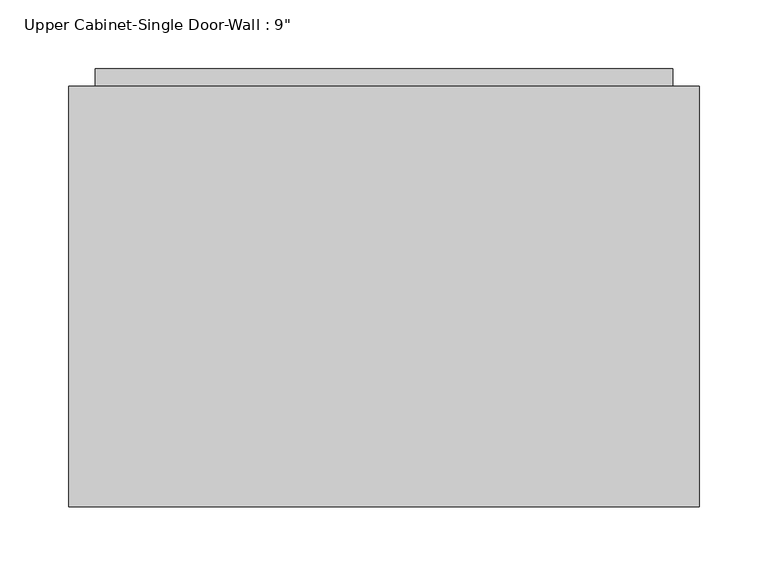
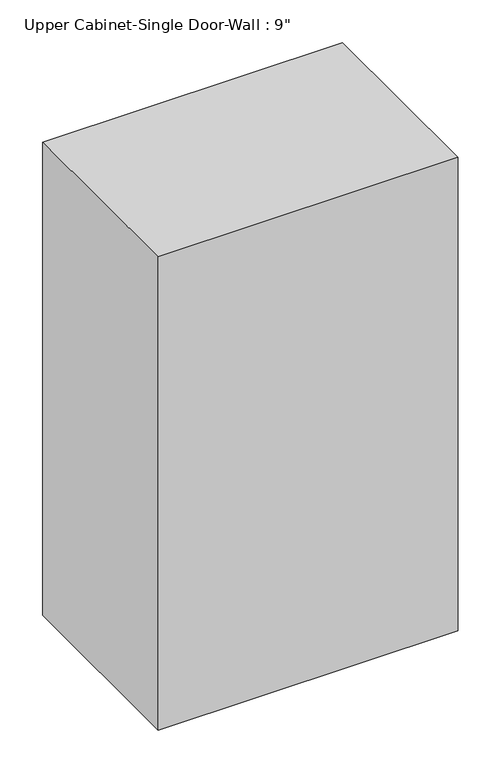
"""IFC4 building model written with IfcOpenShell, lengths in millimetres: furniture geometry."""

from ifc_helpers import new_model, si_unit, frame, origin, place, context, project, spatial, polyline, outline, extrude, faceted_brep, source, transform, mapped, element, save


def furniture_66714404(model_context):
    return source(origin(), model_context, "Body", "SolidModel", [
        faceted_brep([(-198.8288372, 82.55, 2133.6), (-198.8288372, 82.55, 1371.6), (258.3711628, 82.55, 1371.6), (258.3711628, 82.55, 2133.6), (-198.8288372, 387.35, 2133.6), (258.3711628, 387.35, 2133.6), (258.3711628, 387.35, 1371.6), (-198.8288372, 387.35, 1371.6), (-179.7788372, 387.35, 2114.55), (-179.7788372, 387.35, 1390.65), (239.3211628, 387.35, 1390.65), (239.3211628, 387.35, 2114.55), (239.3211628, 101.6, 2114.55), (-179.7788372, 101.6, 2114.55), (239.3211628, 101.6, 1390.65), (-179.7788372, 101.6, 1390.65)], [[[0, 1, 2, 3]], [[4, 5, 6, 7], [8, 9, 10, 11]], [[1, 0, 4, 7]], [[2, 1, 7, 6]], [[3, 2, 6, 5]], [[0, 3, 5, 4]], [[8, 11, 12, 13]], [[11, 10, 14, 12]], [[10, 9, 15, 14]], [[9, 8, 13, 15]], [[13, 12, 14, 15]]]),
        extrude(outline(polyline([(-179.7788372, 400.05), (239.3211628, 400.05), (239.3211628, 368.3), (-179.7788372, 368.3), (-179.7788372, 400.05)])), frame((0.0, 0.0, 1390.65), z_axis=(0.0, 0.0, 1.0), x_axis=(1.0, 0.0, 0.0)), (0.0, 0.0, 1.0), 723.9),
    ])


if __name__ == "__main__":
    model = new_model("IFC4")
    model_context = context("Model", 3, world=origin())
    ifc_project = project(units=[si_unit("LENGTHUNIT", "METRE", prefix="MILLI")], contexts=[model_context])
    site = spatial("IfcSite", under=ifc_project)
    building = spatial("IfcBuilding", under=site)
    placement = place(None, origin())
    furniture_shape = furniture_66714404(model_context)
    element("IfcFurniture", 1, ObjectType="Upper Cabinet-Single Door-Wall : 9\"", at=placement, inside=building, context=model_context, shape_type="MappedRepresentation", body=[
        mapped(furniture_shape, transform((0.0, 0.0, 0.0), x_axis=(1.0, 0.0, 0.0), y_axis=(0.0, 1.0, 0.0), z_axis=(0.0, 0.0, 1.0))),
    ])
    save(model, "model.ifc")
